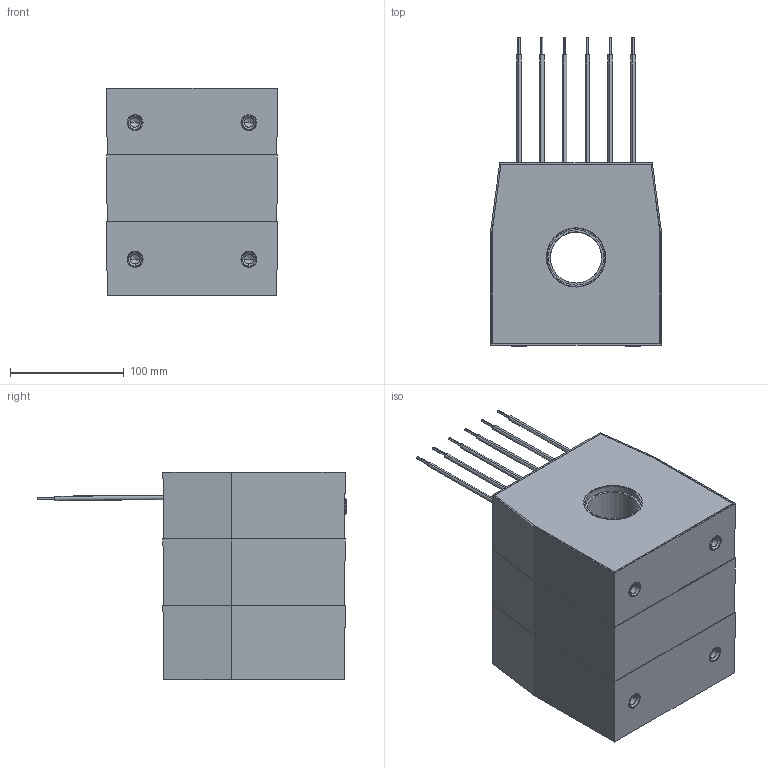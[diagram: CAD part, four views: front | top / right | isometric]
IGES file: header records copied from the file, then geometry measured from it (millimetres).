
Start section: IGES file generated from Kompas f.0 for Windows drawing by the IGES translator from Ascon Ltd., translator version IGESOUT-5.1.
Global section: file name: C:\Ðàáîòà\Èçâåùåíèÿ 5\ÒØÏ-ÍÒÇ-0.66-61...,71...,81... (ñáîðíûé)\Âåðñèÿ îò 21.05.24\3D ìîäåëü\ÒØÏ-ÍÒÇ-0,66-63Ñ\Ñáîðêà ÒØÏ-ÍÒÇ-0,66-63Ñ (45 ìì, 3-é ãàáàðèò).igs; native system: Kompas( 32 bit ) for Windows; preprocessor: 1.0; author: 123; organization: Microsoft; date: -17750316:045257; units: millimetre
Bounding box: 150 x 270.65 x 182 mm (x, y, z)
Volume: 631253.3 mm3; surface area: 408786.4 mm2
Topology: 17 solids, 17 shells, 354 faces, 816 edges, 520 vertices
Faces by surface type: revolution 196, bspline 158
